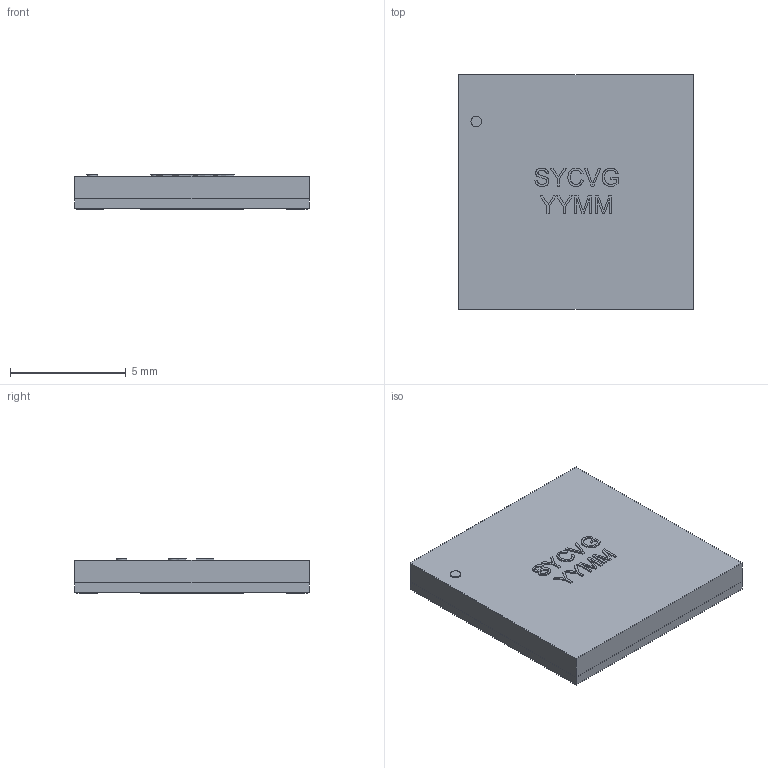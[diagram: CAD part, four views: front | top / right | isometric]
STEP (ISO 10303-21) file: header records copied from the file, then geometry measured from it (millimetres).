
FILE_DESCRIPTION(/* description */ ('','CAx-IF Rec.Pracs.---Representation and Presentation of Product Manufacturing Information (PMI)---4.0---2014-10-13'),/* implementation_level */ '2;1');
FILE_NAME(/* name */ 'Monzite_MDD050N101Q16A v2.step',/* time_stamp */ '2025-01-23T23:22:31-05:00',/* author */ (''),/* organization */ (''),/* preprocessor_version */ 'ST-DEVELOPER v20',/* originating_system */ 'Autodesk Translation Framework v13.20.0.188',/* authorisation */ '');
FILE_SCHEMA (('AP242_MANAGED_MODEL_BASED_3D_ENGINEERING_MIM_LF { 1 0 10303 442 1 1 4 }'));
Length unit declared in the file: inch
Products named in the file (5): Monzite_MDD050N101Q16A; Component1; Component2; Component3; Component4
Assembly tree (4 placements, depth 2):
  Monzite_MDD050N101Q16A
    Component1
    Component2
    Component3
    Component4
Bounding box: 10.16 x 10.16 x 1.49 mm (x, y, z)
Volume: 145.3 mm3; surface area: 529.8 mm2
Topology: 29 solids, 29 shells, 294 faces, 708 edges, 472 vertices
Faces by surface type: plane 205, bspline 88, cylinder 1
Full cylindrical faces by diameter (mm): 0.457 x1
Entity records: 9412 total; most frequent: CARTESIAN_POINT 2980, ORIENTED_EDGE 1416, DIRECTION 966, EDGE_CURVE 708, LINE 530, VECTOR 530, VERTEX_POINT 472, FACE_OUTER_BOUND 294
